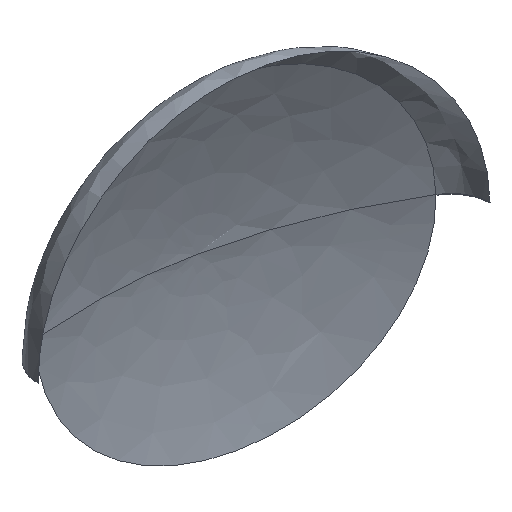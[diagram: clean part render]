
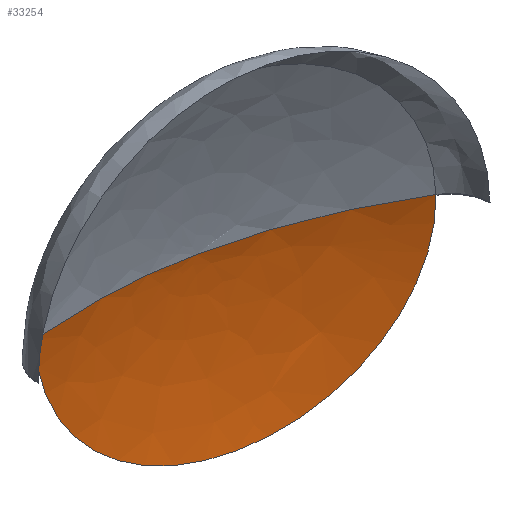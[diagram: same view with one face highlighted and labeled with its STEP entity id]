
A CAD part, isometric view. The second image highlights one B-rep face of the part: STEP entity #33254.
In plain terms, the highlighted free-form (B-spline) face has degree [5, 5] with [9, 6] control points.
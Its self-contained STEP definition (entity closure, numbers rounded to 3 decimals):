
#3699=CARTESIAN_POINT('',(54.498,-0.352,
20.));
#3700=CARTESIAN_POINT('',(54.498,-0.352,
19.995));
#3701=CARTESIAN_POINT('',(54.498,-0.352,
19.99));
#3702=CARTESIAN_POINT('',(54.498,-0.352,
19.984));
#3703=B_SPLINE_CURVE_WITH_KNOTS('',3,(#3699,#3700,#3701,#3702),.UNSPECIFIED.,
.F.,.F.,(4,4),(0.,1.),.UNSPECIFIED.);
#3704=CARTESIAN_POINT('',(54.498,-0.352,
19.984));
#3705=CARTESIAN_POINT('',(54.498,-0.355,
19.842));
#3706=CARTESIAN_POINT('',(54.514,-0.362,
19.545));
#3707=CARTESIAN_POINT('',(54.591,-0.383,
19.088));
#3708=CARTESIAN_POINT('',(54.743,-0.418,
18.58));
#3709=CARTESIAN_POINT('',(54.992,-0.471,
18.041));
#3710=CARTESIAN_POINT('',(55.37,-0.548,
17.484));
#3711=CARTESIAN_POINT('',(55.859,-0.647,
16.984));
#3712=CARTESIAN_POINT('',(56.426,-0.762,
16.58));
#3713=CARTESIAN_POINT('',(57.06,-0.894,
16.278));
#3714=CARTESIAN_POINT('',(57.738,-1.039,16.091));
#3715=CARTESIAN_POINT('',(58.44,-1.197,16.025));
#3716=CARTESIAN_POINT('',(59.142,-1.361,16.081));
#3717=CARTESIAN_POINT('',(59.82,-1.527,16.256));
#3718=CARTESIAN_POINT('',(60.454,-1.687,16.544));
#3719=CARTESIAN_POINT('',(61.024,-1.834,16.934));
#3720=CARTESIAN_POINT('',(61.516,-1.962,17.414));
#3721=CARTESIAN_POINT('',(61.914,-2.065,17.962));
#3722=CARTESIAN_POINT('',(62.219,-2.142,18.588));
#3723=CARTESIAN_POINT('',(62.411,-2.186,19.272));
#3724=CARTESIAN_POINT('',(62.455,-2.191,19.744));
#3725=CARTESIAN_POINT('',(62.455,-2.187,19.982));
#3726=B_SPLINE_CURVE_WITH_KNOTS('',3,(#3704,#3705,#3706,#3707,#3708,#3709,#3710,
#3711,#3712,#3713,#3714,#3715,#3716,#3717,#3718,#3719,#3720,#3721,#3722,#3723,
#3724,#3725),.UNSPECIFIED.,.F.,.F.,(4,1,1,1,1,1,1,1,1,1,1,1,1,1,1,1,1,1,1,4),(
0.,0.053,0.105,0.158,0.211,
0.263,0.316,0.368,0.421,
0.474,0.526,0.579,0.632,
0.684,0.737,0.789,0.842,
0.895,0.947,1.),.UNSPECIFIED.);
#3727=CARTESIAN_POINT('',(62.455,-2.187,19.982));
#3728=CARTESIAN_POINT('',(62.455,-2.186,19.986));
#3729=CARTESIAN_POINT('',(62.455,-2.186,19.991));
#3730=CARTESIAN_POINT('',(62.455,-2.186,19.996));
#3731=B_SPLINE_CURVE_WITH_KNOTS('',3,(#3727,#3728,#3729,#3730),.UNSPECIFIED.,
.F.,.F.,(4,4),(0.,1.),.UNSPECIFIED.);
#3732=CARTESIAN_POINT('',(54.498,-0.352,
20.));
#3733=CARTESIAN_POINT('',(55.787,-0.23,
20.));
#3734=CARTESIAN_POINT('',(57.037,-0.29,
20.));
#3735=CARTESIAN_POINT('',(58.25,-0.531,20.));
#3736=B_SPLINE_CURVE_WITH_KNOTS('',3,(#3732,#3733,#3734,#3735),.UNSPECIFIED.,
.F.,.F.,(4,4),(0.,1.),.UNSPECIFIED.);
#3737=CARTESIAN_POINT('',(58.25,-0.531,20.));
#3738=CARTESIAN_POINT('',(59.707,-0.821,
19.999));
#3739=CARTESIAN_POINT('',(61.108,-1.373,19.997));
#3740=CARTESIAN_POINT('',(62.455,-2.186,19.996));
#3741=B_SPLINE_CURVE_WITH_KNOTS('',3,(#3737,#3738,#3739,#3740),.UNSPECIFIED.,
.F.,.F.,(4,4),(0.,1.),.UNSPECIFIED.);
#3761=CARTESIAN_POINT('',(54.498,-0.352,
20.));
#18530=VERTEX_POINT('',#3727);
#18531=VERTEX_POINT('',#3730);
#18533=VERTEX_POINT('',#3761);
#18535=VERTEX_POINT('',#3702);
#18550=VERTEX_POINT('',#3735);
#33002=EDGE_CURVE('',#18535,#18530,#3726,.T.);
#33045=EDGE_CURVE('',#18530,#18531,#3731,.T.);
#33184=EDGE_CURVE('',#18533,#18535,#3703,.T.);
#33190=CARTESIAN_POINT('',(58.25,-0.531,20.));
#33191=CARTESIAN_POINT('',(57.198,-0.322,20.));
#33192=CARTESIAN_POINT('',(56.122,-0.226,20.));
#33193=CARTESIAN_POINT('',(55.022,-0.245,20.));
#33194=CARTESIAN_POINT('',(53.898,-0.377,20.));
#33195=CARTESIAN_POINT('',(52.75,-0.624,20.));
#33196=CARTESIAN_POINT('',(58.25,-0.531,20.));
#33197=CARTESIAN_POINT('',(57.199,-0.317,
20.339));
#33198=CARTESIAN_POINT('',(56.124,-0.217,
20.679));
#33199=CARTESIAN_POINT('',(55.025,-0.23,
21.018));
#33200=CARTESIAN_POINT('',(53.902,-0.357,
21.358));
#33201=CARTESIAN_POINT('',(52.755,-0.598,
21.697));
#33202=CARTESIAN_POINT('',(58.25,-0.531,20.));
#33203=CARTESIAN_POINT('',(57.457,-0.358,
21.026));
#33204=CARTESIAN_POINT('',(56.653,-0.294,
22.053));
#33205=CARTESIAN_POINT('',(55.837,-0.337,
23.081));
#33206=CARTESIAN_POINT('',(55.01,-0.489,
24.11));
#33207=CARTESIAN_POINT('',(54.171,-0.748,
25.139));
#33208=CARTESIAN_POINT('',(58.25,-0.531,20.));
#33209=CARTESIAN_POINT('',(58.626,-0.582,
21.646));
#33210=CARTESIAN_POINT('',(59.048,-0.717,
23.296));
#33211=CARTESIAN_POINT('',(59.515,-0.936,
24.951));
#33212=CARTESIAN_POINT('',(60.028,-1.239,
26.61));
#33213=CARTESIAN_POINT('',(60.586,-1.626,
28.274));
#33214=CARTESIAN_POINT('',(58.25,-0.531,20.));
#33215=CARTESIAN_POINT('',(60.492,-0.977,
20.011));
#33216=CARTESIAN_POINT('',(62.616,-1.625,
20.016));
#33217=CARTESIAN_POINT('',(64.622,-2.475,
20.016));
#33218=CARTESIAN_POINT('',(66.511,-3.528,
20.01));
#33219=CARTESIAN_POINT('',(68.282,-4.783,
19.999));
#33220=CARTESIAN_POINT('',(58.25,-0.531,20.));
#33221=CARTESIAN_POINT('',(58.621,-0.629,
18.337));
#33222=CARTESIAN_POINT('',(59.038,-0.813,
16.679));
#33223=CARTESIAN_POINT('',(59.5,-1.083,
15.026));
#33224=CARTESIAN_POINT('',(60.008,-1.439,
13.377));
#33225=CARTESIAN_POINT('',(60.562,-1.881,
11.733));
#33226=CARTESIAN_POINT('',(58.25,-0.531,20.));
#33227=CARTESIAN_POINT('',(57.452,-0.387,
18.969));
#33228=CARTESIAN_POINT('',(56.643,-0.353,
17.939));
#33229=CARTESIAN_POINT('',(55.822,-0.428,
16.91));
#33230=CARTESIAN_POINT('',(54.99,-0.612,
15.882));
#33231=CARTESIAN_POINT('',(54.146,-0.906,
14.854));
#33232=CARTESIAN_POINT('',(58.25,-0.531,20.));
#33233=CARTESIAN_POINT('',(57.197,-0.327,
19.659));
#33234=CARTESIAN_POINT('',(56.12,-0.236,
19.318));
#33235=CARTESIAN_POINT('',(55.019,-0.26,
18.978));
#33236=CARTESIAN_POINT('',(53.894,-0.398,
18.637));
#33237=CARTESIAN_POINT('',(52.745,-0.65,
18.296));
#33238=CARTESIAN_POINT('',(58.25,-0.531,20.));
#33239=CARTESIAN_POINT('',(57.198,-0.322,20.));
#33240=CARTESIAN_POINT('',(56.122,-0.226,20.));
#33241=CARTESIAN_POINT('',(55.022,-0.245,20.));
#33242=CARTESIAN_POINT('',(53.898,-0.377,20.));
#33243=CARTESIAN_POINT('',(52.75,-0.624,20.));
#33244=B_SPLINE_SURFACE_WITH_KNOTS('',5,5,((#33190,#33191,#33192,#33193,#33194,
#33195),(#33196,#33197,#33198,#33199,#33200,#33201),(#33202,#33203,#33204,
#33205,#33206,#33207),(#33208,#33209,#33210,#33211,#33212,#33213),(#33214,
#33215,#33216,#33217,#33218,#33219),(#33220,#33221,#33222,#33223,#33224,#33225),
(#33226,#33227,#33228,#33229,#33230,#33231),(#33232,#33233,#33234,#33235,#33236,
#33237),(#33238,#33239,#33240,#33241,#33242,#33243)),.UNSPECIFIED.,.T.,.F.,.F.,(
6,1,1,1,6),(6,6),(0.,0.247,0.5,0.752,
1.),(0.,1.),.UNSPECIFIED.);
#33245=EDGE_CURVE('',#18550,#18531,#3741,.T.);
#33246=ORIENTED_EDGE('',*,*,#33245,.F.);
#33247=EDGE_CURVE('',#18533,#18550,#3736,.T.);
#33248=ORIENTED_EDGE('',*,*,#33247,.F.);
#33249=ORIENTED_EDGE('',*,*,#33184,.T.);
#33250=ORIENTED_EDGE('',*,*,#33002,.T.);
#33251=ORIENTED_EDGE('',*,*,#33045,.T.);
#33252=EDGE_LOOP('',(#33246,#33248,#33249,#33250,#33251));
#33253=FACE_OUTER_BOUND('',#33252,.F.);
#33254=ADVANCED_FACE('',(#33253),#33244,.F.);
